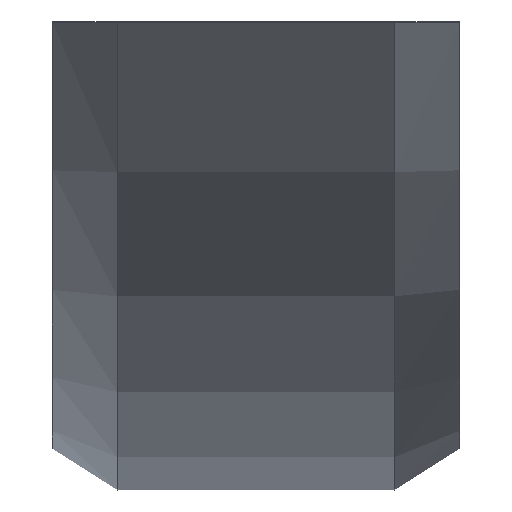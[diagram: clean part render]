
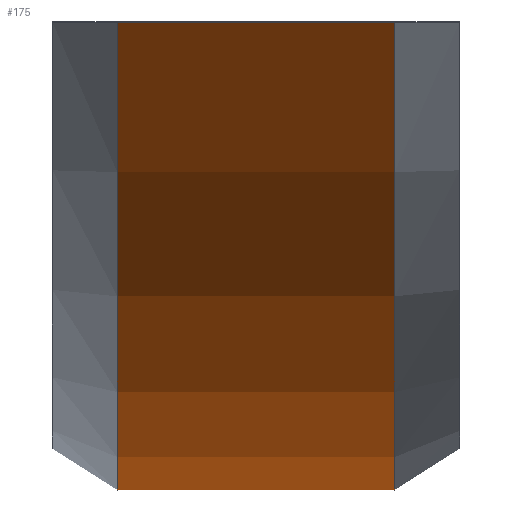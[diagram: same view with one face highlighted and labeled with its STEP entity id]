
A CAD part, front view. The second image highlights one B-rep face of the part: STEP entity #175.
In plain terms, the highlighted cylindrical face has radius 50 mm (diameter 100 mm), a partial arc.
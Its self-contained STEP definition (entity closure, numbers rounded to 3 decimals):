
#16=CYLINDRICAL_SURFACE('',#215,50.);
#22=CIRCLE('',#207,50.);
#26=CIRCLE('',#214,50.);
#34=FACE_OUTER_BOUND('',#44,.T.);
#44=EDGE_LOOP('',(#152,#153,#154,#155));
#55=LINE('',#284,#67);
#61=LINE('',#304,#73);
#67=VECTOR('',#227,10.);
#73=VECTOR('',#233,10.);
#80=VERTEX_POINT('',#279);
#81=VERTEX_POINT('',#283);
#88=VERTEX_POINT('',#299);
#89=VERTEX_POINT('',#303);
#96=EDGE_CURVE('',#81,#80,#55,.T.);
#104=EDGE_CURVE('',#89,#88,#61,.T.);
#110=EDGE_CURVE('',#81,#88,#22,.T.);
#114=EDGE_CURVE('',#80,#89,#26,.T.);
#152=ORIENTED_EDGE('',*,*,#104,.T.);
#153=ORIENTED_EDGE('',*,*,#110,.F.);
#154=ORIENTED_EDGE('',*,*,#96,.T.);
#155=ORIENTED_EDGE('',*,*,#114,.T.);
#175=ADVANCED_FACE('',(#34),#16,.T.);
#207=AXIS2_PLACEMENT_3D('',#316,#244,#245);
#214=AXIS2_PLACEMENT_3D('',#323,#258,#259);
#215=AXIS2_PLACEMENT_3D('',#324,#260,#261);
#227=DIRECTION('',(1.,0.,0.));
#233=DIRECTION('',(-1.,0.,0.));
#244=DIRECTION('center_axis',(-1.,0.,0.));
#245=DIRECTION('ref_axis',(0.,0.866,-0.5));
#258=DIRECTION('center_axis',(-1.,0.,0.));
#259=DIRECTION('ref_axis',(0.,0.866,-0.5));
#260=DIRECTION('center_axis',(-1.,0.,0.));
#261=DIRECTION('ref_axis',(0.,0.866,-0.5));
#279=CARTESIAN_POINT('',(4.7,36.661,0.));
#283=CARTESIAN_POINT('',(-4.7,36.661,0.));
#284=CARTESIAN_POINT('',(0.,36.661,0.));
#299=CARTESIAN_POINT('',(-4.7,-36.661,0.));
#303=CARTESIAN_POINT('',(4.7,-36.661,0.));
#304=CARTESIAN_POINT('',(0.,-36.661,0.));
#316=CARTESIAN_POINT('Origin',(-4.7,0.,34.));
#323=CARTESIAN_POINT('Origin',(4.7,0.,34.));
#324=CARTESIAN_POINT('Origin',(0.,0.,34.));
